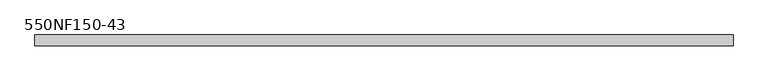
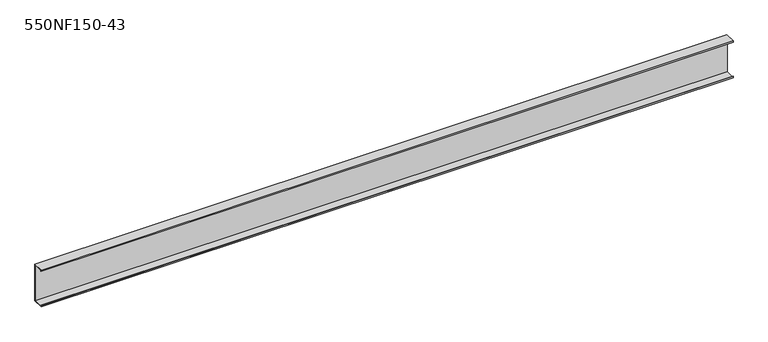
"""IFC4 building model written with IfcOpenShell, lengths in millimetres: beam geometry, BIMSF-SSMA-S : 550NF150-43."""

from ifc_helpers import new_model, si_unit, frame, origin, place, context, project, spatial, polyline, outline, extrude, source, transform, mapped, element, save


def beam_550nf150_43_4e6669e4(model_context):
    return source(origin(), model_context, "Body", "SweptSolid", [
        extrude(outline(polyline([(19.05, 69.85), (19.05, -69.85), (-19.05, -69.85), (-19.05, -65.0748), (-17.9003158, -65.0748), (-17.9003158, -68.7003158), (17.9003158, -68.7003158), (17.9003158, 68.7003158), (-17.9003158, 68.7003158), (-17.9003158, 65.0748), (-19.05, 65.0748), (-19.05, 69.85), (19.05, 69.85)])), frame((-1244.6, 0.0, 0.0), z_axis=(1.0, 0.0, 0.0), x_axis=(0.0, 1.0, 0.0)), (0.0, 0.0, 1.0), 2489.2),
    ])


if __name__ == "__main__":
    model = new_model("IFC4")
    model_context = context("Model", 3, world=origin())
    ifc_project = project(units=[si_unit("LENGTHUNIT", "METRE", prefix="MILLI")], contexts=[model_context])
    site = spatial("IfcSite", under=ifc_project)
    building = spatial("IfcBuilding", under=site)
    placement = place(None, origin())
    beam_550nf150_43_shape = beam_550nf150_43_4e6669e4(model_context)
    element("IfcBeam", 1, ObjectType="BIMSF-SSMA-S : 550NF150-43", at=placement, inside=building, context=model_context, shape_type="MappedRepresentation", body=[
        mapped(beam_550nf150_43_shape, transform((0.0, 0.0, 0.0), x_axis=(1.0, 0.0, 0.0), y_axis=(0.0, 1.0, 0.0), z_axis=(0.0, 0.0, 1.0))),
    ])
    save(model, "model.ifc")
